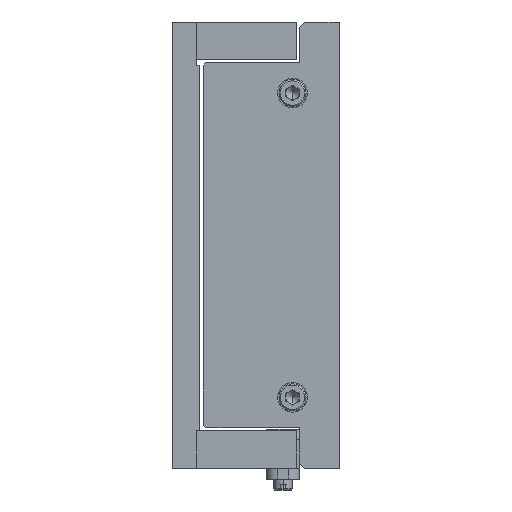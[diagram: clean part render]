
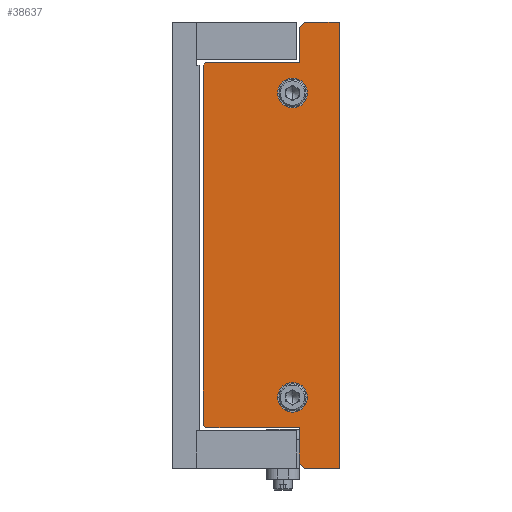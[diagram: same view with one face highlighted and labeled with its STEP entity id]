
A CAD part, left-side view. The second image highlights one B-rep face of the part: STEP entity #38637.
In plain terms, the highlighted planar face has unit normal (-1, 0, 0).
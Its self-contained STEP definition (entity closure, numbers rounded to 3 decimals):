
#557 = AXIS2_PLACEMENT_3D ( 'NONE', #31907, #10508, #15217 ) ;
#763 = CARTESIAN_POINT ( 'NONE',  ( -265., 15., 67.5 ) ) ;
#1063 = LINE ( 'NONE', #23992, #52903 ) ;
#1315 = AXIS2_PLACEMENT_3D ( 'NONE', #22559, #5898, #10189 ) ;
#1531 = ORIENTED_EDGE ( 'NONE', *, *, #52860, .T. ) ;
#1845 = VERTEX_POINT ( 'NONE', #24605 ) ;
#2129 = CARTESIAN_POINT ( 'NONE',  ( -265., 17.5, -56.25 ) ) ;
#2139 = VECTOR ( 'NONE', #40474, 1000. ) ;
#2578 = VECTOR ( 'NONE', #35403, 1000. ) ;
#2900 = CIRCLE ( 'NONE', #40659, 5.5 ) ;
#3133 = CARTESIAN_POINT ( 'NONE',  ( -265., 0.25, 82.5 ) ) ;
#3268 = ORIENTED_EDGE ( 'NONE', *, *, #50759, .T. ) ;
#4622 = VERTEX_POINT ( 'NONE', #18661 ) ;
#4717 = ORIENTED_EDGE ( 'NONE', *, *, #26253, .T. ) ;
#5049 = CARTESIAN_POINT ( 'NONE',  ( -265., 17.5, -61.75 ) ) ;
#5136 = DIRECTION ( 'NONE',  ( 0., 0., -1. ) ) ;
#5306 = ORIENTED_EDGE ( 'NONE', *, *, #33956, .F. ) ;
#5319 = EDGE_CURVE ( 'NONE', #23049, #1845, #31296, .T. ) ;
#5598 = DIRECTION ( 'NONE',  ( 1., 0., 0. ) ) ;
#5696 = CARTESIAN_POINT ( 'NONE',  ( -265., 15., -67.5 ) ) ;
#5726 = ORIENTED_EDGE ( 'NONE', *, *, #16253, .T. ) ;
#5898 = DIRECTION ( 'NONE',  ( -1., 0., 0. ) ) ;
#6316 = DIRECTION ( 'NONE',  ( 0., 0., 1. ) ) ;
#6782 = VERTEX_POINT ( 'NONE', #26557 ) ;
#7517 = LINE ( 'NONE', #7825, #51926 ) ;
#7825 = CARTESIAN_POINT ( 'NONE',  ( -265., 0.25, -82.5 ) ) ;
#8589 = VERTEX_POINT ( 'NONE', #9144 ) ;
#9144 = CARTESIAN_POINT ( 'NONE',  ( -265., 15., -67.5 ) ) ;
#10189 = DIRECTION ( 'NONE',  ( 0., 0., 1. ) ) ;
#10273 = CARTESIAN_POINT ( 'NONE',  ( -265., 0., 0. ) ) ;
#10508 = DIRECTION ( 'NONE',  ( -1., 0., 0. ) ) ;
#10551 = CARTESIAN_POINT ( 'NONE',  ( -265., 13.05, -82.5 ) ) ;
#11164 = VERTEX_POINT ( 'NONE', #5049 ) ;
#11441 = CARTESIAN_POINT ( 'NONE',  ( -265., 15., 67.5 ) ) ;
#11513 = DIRECTION ( 'NONE',  ( 0., 1., 0. ) ) ;
#12012 = LINE ( 'NONE', #27762, #51684 ) ;
#12274 = VECTOR ( 'NONE', #16291, 1000. ) ;
#13210 = VERTEX_POINT ( 'NONE', #51498 ) ;
#13574 = LINE ( 'NONE', #24309, #45202 ) ;
#15217 = DIRECTION ( 'NONE',  ( 0., 0., 1. ) ) ;
#15281 = CARTESIAN_POINT ( 'NONE',  ( -265., 50.5, 66.5 ) ) ;
#15417 = ORIENTED_EDGE ( 'NONE', *, *, #21600, .F. ) ;
#15668 = LINE ( 'NONE', #21629, #53397 ) ;
#16000 = ORIENTED_EDGE ( 'NONE', *, *, #30883, .T. ) ;
#16003 = EDGE_CURVE ( 'NONE', #33221, #11164, #2900, .T. ) ;
#16253 = EDGE_CURVE ( 'NONE', #19523, #18644, #31088, .T. ) ;
#16291 = DIRECTION ( 'NONE',  ( 0., 0., -1. ) ) ;
#16354 = EDGE_CURVE ( 'NONE', #39860, #38257, #15668, .T. ) ;
#17927 = EDGE_CURVE ( 'NONE', #4622, #8589, #31454, .T. ) ;
#18526 = EDGE_CURVE ( 'NONE', #38257, #4622, #29412, .T. ) ;
#18644 = VERTEX_POINT ( 'NONE', #11441 ) ;
#18661 = CARTESIAN_POINT ( 'NONE',  ( -265., 49.5, -67.5 ) ) ;
#19397 = CARTESIAN_POINT ( 'NONE',  ( -265., 17.5, -56.25 ) ) ;
#19405 = CARTESIAN_POINT ( 'NONE',  ( -265., 13.05, 82.5 ) ) ;
#19523 = VERTEX_POINT ( 'NONE', #35659 ) ;
#19561 = DIRECTION ( 'NONE',  ( 0., 0., 1. ) ) ;
#19587 = DIRECTION ( 'NONE',  ( -1., 0., 0. ) ) ;
#20227 = CARTESIAN_POINT ( 'NONE',  ( -265., 17.5, 50.75 ) ) ;
#21600 = EDGE_CURVE ( 'NONE', #34765, #43908, #53200, .T. ) ;
#21629 = CARTESIAN_POINT ( 'NONE',  ( -265., 50.5, -66.5 ) ) ;
#22529 = ORIENTED_EDGE ( 'NONE', *, *, #16003, .F. ) ;
#22559 = CARTESIAN_POINT ( 'NONE',  ( -265., 17.5, 56.25 ) ) ;
#23049 = VERTEX_POINT ( 'NONE', #34811 ) ;
#23289 = EDGE_CURVE ( 'NONE', #43908, #34765, #34796, .T. ) ;
#23651 = VERTEX_POINT ( 'NONE', #26600 ) ;
#23992 = CARTESIAN_POINT ( 'NONE',  ( -265., 15., 80.55 ) ) ;
#24309 = CARTESIAN_POINT ( 'NONE',  ( -265., 50.5, 66.5 ) ) ;
#24605 = CARTESIAN_POINT ( 'NONE',  ( -265., 0.25, 82.5 ) ) ;
#24989 = EDGE_LOOP ( 'NONE', ( #22529, #5306 ) ) ;
#25312 = VECTOR ( 'NONE', #11513, 1000. ) ;
#26138 = ORIENTED_EDGE ( 'NONE', *, *, #5319, .T. ) ;
#26244 = FACE_OUTER_BOUND ( 'NONE', #41459, .T. ) ;
#26253 = EDGE_CURVE ( 'NONE', #6782, #13210, #29072, .T. ) ;
#26557 = CARTESIAN_POINT ( 'NONE',  ( -265., 15., -80.55 ) ) ;
#26600 = CARTESIAN_POINT ( 'NONE',  ( -265., 13.05, 82.5 ) ) ;
#26955 = FACE_BOUND ( 'NONE', #24989, .T. ) ;
#27395 = VECTOR ( 'NONE', #31670, 1000. ) ;
#27762 = CARTESIAN_POINT ( 'NONE',  ( -265., 49.5, 67.5 ) ) ;
#27835 = AXIS2_PLACEMENT_3D ( 'NONE', #10273, #5598, #40355 ) ;
#27961 = ORIENTED_EDGE ( 'NONE', *, *, #23289, .F. ) ;
#28235 = DIRECTION ( 'NONE',  ( -1., 0., 0. ) ) ;
#28541 = DIRECTION ( 'NONE',  ( 0., 0.707, -0.707 ) ) ;
#28939 = CIRCLE ( 'NONE', #47470, 5.5 ) ;
#29072 = LINE ( 'NONE', #10551, #2139 ) ;
#29412 = LINE ( 'NONE', #35892, #27395 ) ;
#30883 = EDGE_CURVE ( 'NONE', #13210, #23049, #7517, .T. ) ;
#31088 = LINE ( 'NONE', #763, #39233 ) ;
#31296 = LINE ( 'NONE', #3133, #52242 ) ;
#31373 = EDGE_LOOP ( 'NONE', ( #27961, #15417 ) ) ;
#31454 = LINE ( 'NONE', #5696, #2578 ) ;
#31539 = CARTESIAN_POINT ( 'NONE',  ( -265., 49.5, 67.5 ) ) ;
#31670 = DIRECTION ( 'NONE',  ( 0., -0.707, -0.707 ) ) ;
#31907 = CARTESIAN_POINT ( 'NONE',  ( -265., 17.5, 56.25 ) ) ;
#33221 = VERTEX_POINT ( 'NONE', #45072 ) ;
#33306 = EDGE_CURVE ( 'NONE', #8589, #6782, #47245, .T. ) ;
#33353 = EDGE_CURVE ( 'NONE', #53274, #39860, #13574, .T. ) ;
#33956 = EDGE_CURVE ( 'NONE', #11164, #33221, #28939, .T. ) ;
#34765 = VERTEX_POINT ( 'NONE', #20227 ) ;
#34796 = CIRCLE ( 'NONE', #557, 5.5 ) ;
#34811 = CARTESIAN_POINT ( 'NONE',  ( -265., 0.25, -82.5 ) ) ;
#35403 = DIRECTION ( 'NONE',  ( 0., -1., 0. ) ) ;
#35659 = CARTESIAN_POINT ( 'NONE',  ( -265., 15., 80.55 ) ) ;
#35892 = CARTESIAN_POINT ( 'NONE',  ( -265., 49.5, -67.5 ) ) ;
#37798 = ORIENTED_EDGE ( 'NONE', *, *, #48082, .T. ) ;
#38257 = VERTEX_POINT ( 'NONE', #52357 ) ;
#38637 = ADVANCED_FACE ( 'NONE', ( #26955, #51232, #26244 ), #43737, .F. ) ;
#38844 = ORIENTED_EDGE ( 'NONE', *, *, #33353, .T. ) ;
#39233 = VECTOR ( 'NONE', #5136, 1000. ) ;
#39860 = VERTEX_POINT ( 'NONE', #15281 ) ;
#40355 = DIRECTION ( 'NONE',  ( 0., 0., -1. ) ) ;
#40368 = CARTESIAN_POINT ( 'NONE',  ( -265., 15., -80.55 ) ) ;
#40474 = DIRECTION ( 'NONE',  ( 0., -0.707, -0.707 ) ) ;
#40659 = AXIS2_PLACEMENT_3D ( 'NONE', #2129, #19587, #6316 ) ;
#40842 = LINE ( 'NONE', #19405, #25312 ) ;
#40949 = DIRECTION ( 'NONE',  ( 0., 1., 0. ) ) ;
#41328 = DIRECTION ( 'NONE',  ( 0., 0., 1. ) ) ;
#41459 = EDGE_LOOP ( 'NONE', ( #26138, #1531, #3268, #5726, #37798, #38844, #49997, #50447, #50916, #55456, #4717, #16000 ) ) ;
#42049 = DIRECTION ( 'NONE',  ( 0., -1., 0. ) ) ;
#43459 = DIRECTION ( 'NONE',  ( 0., 0., -1. ) ) ;
#43737 = PLANE ( 'NONE',  #27835 ) ;
#43908 = VERTEX_POINT ( 'NONE', #48620 ) ;
#45072 = CARTESIAN_POINT ( 'NONE',  ( -265., 17.5, -50.75 ) ) ;
#45202 = VECTOR ( 'NONE', #50309, 1000. ) ;
#47245 = LINE ( 'NONE', #40368, #12274 ) ;
#47470 = AXIS2_PLACEMENT_3D ( 'NONE', #19397, #28235, #19561 ) ;
#48082 = EDGE_CURVE ( 'NONE', #18644, #53274, #12012, .T. ) ;
#48620 = CARTESIAN_POINT ( 'NONE',  ( -265., 17.5, 61.75 ) ) ;
#49997 = ORIENTED_EDGE ( 'NONE', *, *, #16354, .T. ) ;
#50309 = DIRECTION ( 'NONE',  ( 0., 0.707, -0.707 ) ) ;
#50447 = ORIENTED_EDGE ( 'NONE', *, *, #18526, .T. ) ;
#50759 = EDGE_CURVE ( 'NONE', #23651, #19523, #1063, .T. ) ;
#50916 = ORIENTED_EDGE ( 'NONE', *, *, #17927, .T. ) ;
#51232 = FACE_BOUND ( 'NONE', #31373, .T. ) ;
#51498 = CARTESIAN_POINT ( 'NONE',  ( -265., 13.05, -82.5 ) ) ;
#51684 = VECTOR ( 'NONE', #40949, 1000. ) ;
#51926 = VECTOR ( 'NONE', #42049, 1000. ) ;
#52242 = VECTOR ( 'NONE', #41328, 1000. ) ;
#52357 = CARTESIAN_POINT ( 'NONE',  ( -265., 50.5, -66.5 ) ) ;
#52860 = EDGE_CURVE ( 'NONE', #1845, #23651, #40842, .T. ) ;
#52903 = VECTOR ( 'NONE', #28541, 1000. ) ;
#53200 = CIRCLE ( 'NONE', #1315, 5.5 ) ;
#53274 = VERTEX_POINT ( 'NONE', #31539 ) ;
#53397 = VECTOR ( 'NONE', #43459, 1000. ) ;
#55456 = ORIENTED_EDGE ( 'NONE', *, *, #33306, .T. ) ;
